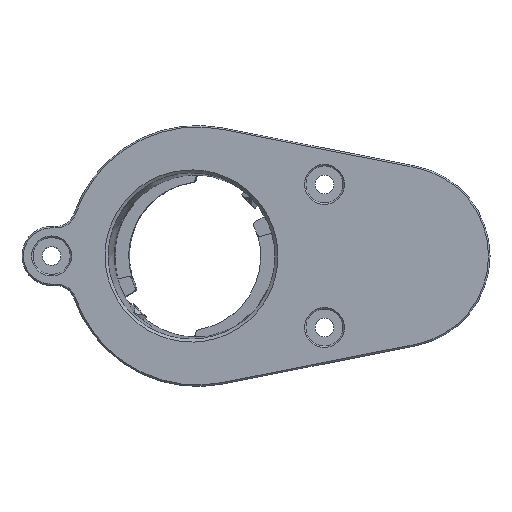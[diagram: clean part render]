
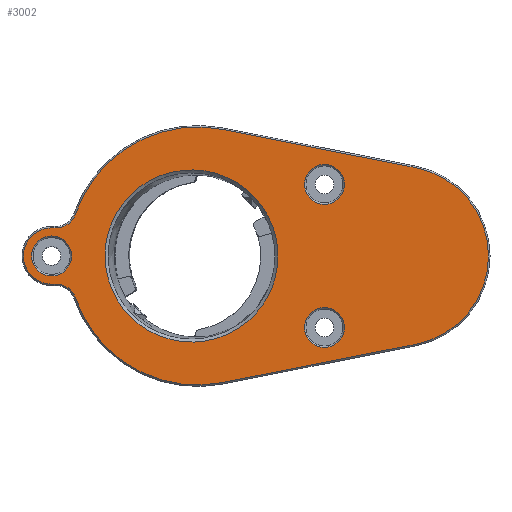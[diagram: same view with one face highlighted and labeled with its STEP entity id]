
A CAD part, top view. The second image highlights one B-rep face of the part: STEP entity #3002.
In plain terms, the highlighted planar face has unit normal (0, 0, 1).
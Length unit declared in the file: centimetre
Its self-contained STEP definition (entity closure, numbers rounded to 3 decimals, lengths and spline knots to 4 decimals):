
#231=B_SPLINE_CURVE_WITH_KNOTS('',3,(#5680,#5681,#5682,#5683,#5684,#5685,
#5686,#5687,#5688,#5689,#5690,#5691,#5692,#5693,#5694,#5695,#5696,#5697,
#5698,#5699),.UNSPECIFIED.,.T.,.U.,(4,2,2,2,2,2,2,2,2,4),(-3.1416,
-2.8428,-2.3647,-1.6019,-0.7424,
0.1176,0.9771,1.8366,2.6968,3.1416),
 .UNSPECIFIED.);
#306=PLANE('',#3332);
#440=CIRCLE('',#3331,0.54);
#441=CIRCLE('',#3333,0.54);
#442=CIRCLE('',#3334,0.54);
#443=CIRCLE('',#3335,3.485);
#444=CIRCLE('',#3336,2.4302);
#445=CIRCLE('',#3337,3.485);
#446=CIRCLE('',#3338,0.54);
#447=CIRCLE('',#3339,0.76);
#448=CIRCLE('',#3340,0.54);
#698=VERTEX_POINT('',#5656);
#699=VERTEX_POINT('',#5659);
#700=VERTEX_POINT('',#5661);
#701=VERTEX_POINT('',#5662);
#702=VERTEX_POINT('',#5664);
#703=VERTEX_POINT('',#5666);
#704=VERTEX_POINT('',#5668);
#705=VERTEX_POINT('',#5670);
#706=VERTEX_POINT('',#5672);
#707=VERTEX_POINT('',#5674);
#708=VERTEX_POINT('',#5676);
#709=VERTEX_POINT('',#5678);
#710=VERTEX_POINT('',#5700);
#711=VERTEX_POINT('',#5702);
#906=VECTOR('',#6593,1.);
#907=VECTOR('',#6598,1.);
#908=VECTOR('',#6601,1.);
#909=VECTOR('',#6606,1.);
#1114=LINE('',#5660,#906);
#1115=LINE('',#5667,#907);
#1116=LINE('',#5671,#908);
#1117=LINE('',#5677,#909);
#1518=EDGE_CURVE('',#698,#698,#440,.T.);
#1519=EDGE_CURVE('',#699,#699,#441,.T.);
#1520=EDGE_CURVE('',#700,#701,#1114,.T.);
#1521=EDGE_CURVE('',#702,#700,#442,.T.);
#1522=EDGE_CURVE('',#703,#702,#443,.T.);
#1523=EDGE_CURVE('',#704,#703,#1115,.T.);
#1524=EDGE_CURVE('',#705,#704,#444,.T.);
#1525=EDGE_CURVE('',#706,#705,#1116,.T.);
#1526=EDGE_CURVE('',#707,#706,#445,.T.);
#1527=EDGE_CURVE('',#708,#707,#446,.T.);
#1528=EDGE_CURVE('',#709,#708,#1117,.T.);
#1529=EDGE_CURVE('',#701,#709,#447,.T.);
#1530=EDGE_CURVE('',#710,#710,#231,.F.);
#1531=EDGE_CURVE('',#711,#711,#448,.T.);
#2282=ORIENTED_EDGE('',*,*,#1519,.F.);
#2283=ORIENTED_EDGE('',*,*,#1520,.F.);
#2284=ORIENTED_EDGE('',*,*,#1521,.F.);
#2285=ORIENTED_EDGE('',*,*,#1522,.F.);
#2286=ORIENTED_EDGE('',*,*,#1523,.F.);
#2287=ORIENTED_EDGE('',*,*,#1524,.F.);
#2288=ORIENTED_EDGE('',*,*,#1525,.F.);
#2289=ORIENTED_EDGE('',*,*,#1526,.F.);
#2290=ORIENTED_EDGE('',*,*,#1527,.F.);
#2291=ORIENTED_EDGE('',*,*,#1528,.F.);
#2292=ORIENTED_EDGE('',*,*,#1529,.F.);
#2293=ORIENTED_EDGE('',*,*,#1530,.F.);
#2294=ORIENTED_EDGE('',*,*,#1531,.F.);
#2295=ORIENTED_EDGE('',*,*,#1518,.F.);
#2591=EDGE_LOOP('',(#2282));
#2592=EDGE_LOOP('',(#2283,#2284,#2285,#2286,#2287,#2288,#2289,#2290,#2291,
#2292));
#2593=EDGE_LOOP('',(#2293));
#2594=EDGE_LOOP('',(#2294));
#2595=EDGE_LOOP('',(#2295));
#2805=FACE_BOUND('',#2591,.T.);
#2806=FACE_BOUND('',#2592,.T.);
#2807=FACE_BOUND('',#2593,.T.);
#2808=FACE_BOUND('',#2594,.T.);
#2809=FACE_BOUND('',#2595,.T.);
#3002=ADVANCED_FACE('',(#2805,#2806,#2807,#2808,#2809),#306,.T.);
#3331=AXIS2_PLACEMENT_3D('',#5655,#6588,#6589);
#3332=AXIS2_PLACEMENT_3D('',#5657,#6590,$);
#3333=AXIS2_PLACEMENT_3D('',#5658,#6591,#6592);
#3334=AXIS2_PLACEMENT_3D('',#5663,#6594,#6595);
#3335=AXIS2_PLACEMENT_3D('',#5665,#6596,#6597);
#3336=AXIS2_PLACEMENT_3D('',#5669,#6599,#6600);
#3337=AXIS2_PLACEMENT_3D('',#5673,#6602,#6603);
#3338=AXIS2_PLACEMENT_3D('',#5675,#6604,#6605);
#3339=AXIS2_PLACEMENT_3D('',#5679,#6607,#6608);
#3340=AXIS2_PLACEMENT_3D('',#5701,#6609,#6610);
#5655=CARTESIAN_POINT('',(3.4299,1.934,1.8));
#5656=CARTESIAN_POINT('',(3.9699,1.934,1.8));
#5657=CARTESIAN_POINT('',(1.5734,0.,1.8));
#5658=CARTESIAN_POINT('',(3.4299,-1.934,1.8));
#5659=CARTESIAN_POINT('',(3.9699,-1.934,1.8));
#5660=CARTESIAN_POINT('',(-1.0559,-0.76,1.8));
#5661=CARTESIAN_POINT('',(-3.8093,-0.76,1.8));
#5662=CARTESIAN_POINT('',(-3.9376,-0.76,1.8));
#5663=CARTESIAN_POINT('',(-3.8093,-1.3,1.8));
#5664=CARTESIAN_POINT('',(-3.2982,-1.1256,1.8));
#5665=CARTESIAN_POINT('',(0.,0.,1.8));
#5666=CARTESIAN_POINT('',(0.6767,-3.4187,1.8));
#5667=CARTESIAN_POINT('',(2.7407,-3.0101,1.8));
#5668=CARTESIAN_POINT('',(5.9045,-2.3839,1.8));
#5669=CARTESIAN_POINT('',(5.4327,0.,1.8));
#5670=CARTESIAN_POINT('',(5.9045,2.3839,1.8));
#5671=CARTESIAN_POINT('',(2.7407,3.0101,1.8));
#5672=CARTESIAN_POINT('',(0.6767,3.4187,1.8));
#5673=CARTESIAN_POINT('',(0.,0.,1.8));
#5674=CARTESIAN_POINT('',(-3.2982,1.1256,1.8));
#5675=CARTESIAN_POINT('',(-3.8093,1.3,1.8));
#5676=CARTESIAN_POINT('',(-3.8093,0.76,1.8));
#5677=CARTESIAN_POINT('',(-1.0559,0.76,1.8));
#5678=CARTESIAN_POINT('',(-3.9376,0.76,1.8));
#5679=CARTESIAN_POINT('',(-3.9376,0.,1.8));
#5680=CARTESIAN_POINT('',(2.1752,0.,1.8));
#5681=CARTESIAN_POINT('',(2.1752,-0.2317,1.8));
#5682=CARTESIAN_POINT('',(2.1402,-0.4635,1.8));
#5683=CARTESIAN_POINT('',(1.9621,-1.0393,1.8));
#5684=CARTESIAN_POINT('',(1.766,-1.3668,1.8));
#5685=CARTESIAN_POINT('',(1.0887,-2.053,1.8));
#5686=CARTESIAN_POINT('',(0.5058,-2.3071,1.8));
#5687=CARTESIAN_POINT('',(-0.7566,-2.3462,1.8));
#5688=CARTESIAN_POINT('',(-1.4289,-2.0641,1.8));
#5689=CARTESIAN_POINT('',(-2.3339,-1.0814,1.8));
#5690=CARTESIAN_POINT('',(-2.5583,-0.3893,1.8));
#5691=CARTESIAN_POINT('',(-2.4012,0.935,1.8));
#5692=CARTESIAN_POINT('',(-2.0215,1.5556,1.8));
#5693=CARTESIAN_POINT('',(-0.9123,2.3014,1.8));
#5694=CARTESIAN_POINT('',(-0.1924,2.42,1.8));
#5695=CARTESIAN_POINT('',(1.0994,2.0696,1.8));
#5696=CARTESIAN_POINT('',(1.6598,1.6033,1.8));
#5697=CARTESIAN_POINT('',(2.0969,0.6897,1.8));
#5698=CARTESIAN_POINT('',(2.1752,0.345,1.8));
#5699=CARTESIAN_POINT('',(2.1752,0.,1.8));
#5700=CARTESIAN_POINT('',(2.1752,0.,1.8));
#5701=CARTESIAN_POINT('',(-3.9376,0.,1.8));
#5702=CARTESIAN_POINT('',(-3.3976,0.,1.8));
#6588=DIRECTION('',(0.,0.,1.));
#6589=DIRECTION('',(-0.54,0.,0.));
#6590=DIRECTION('',(0.,0.,1.));
#6591=DIRECTION('',(0.,0.,1.));
#6592=DIRECTION('',(-0.54,0.,0.));
#6593=DIRECTION('',(-1.,0.,0.));
#6594=DIRECTION('',(0.,0.,1.));
#6595=DIRECTION('',(0.314,0.439,0.));
#6596=DIRECTION('',(0.,0.,-1.));
#6597=DIRECTION('',(-1.741,-3.019,0.));
#6598=DIRECTION('',(-0.981,-0.194,0.));
#6599=DIRECTION('',(0.,0.,-1.));
#6600=DIRECTION('',(2.43,0.,0.));
#6601=DIRECTION('',(0.981,-0.194,0.));
#6602=DIRECTION('',(0.,0.,-1.));
#6603=DIRECTION('',(-1.741,3.019,0.));
#6604=DIRECTION('',(0.,0.,1.));
#6605=DIRECTION('',(0.314,-0.439,0.));
#6606=DIRECTION('',(1.,0.,0.));
#6607=DIRECTION('',(0.,0.,-1.));
#6608=DIRECTION('',(-0.76,0.,0.));
#6609=DIRECTION('',(0.,0.,1.));
#6610=DIRECTION('',(-0.54,0.,0.));
